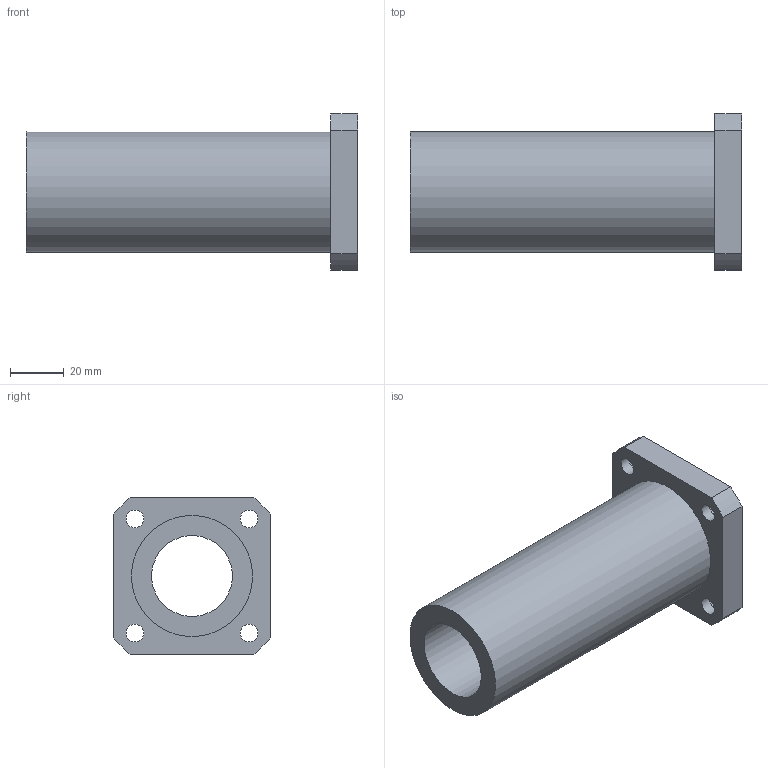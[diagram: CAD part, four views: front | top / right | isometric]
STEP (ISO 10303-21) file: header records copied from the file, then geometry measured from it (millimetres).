
FILE_DESCRIPTION(/* description */ (''),/* implementation_level */ '2;1');
FILE_NAME(/* name */ 'LMK30LUU',/* time_stamp */ '2019-07-09T15:48:43+02:00',/* author */ ('VĂ©gh MĂˇtĂ©'),/* organization */ ('Bearing Kft'),/* preprocessor_version */ 'ST-DEVELOPER v16.7',/* originating_system */ 'DEX',/* authorisation */ $);
FILE_SCHEMA (('AUTOMOTIVE_DESIGN {1 0 10303 214 3 1 1}'));
Length unit declared in the file: millimetre
Products named in the file (1): LMK30LUU
Bounding box: 123 x 58 x 58 mm (x, y, z)
Volume: 122886.3 mm3; surface area: 35851.8 mm2
Topology: 1 solids, 1 shells, 332 faces, 834 edges, 556 vertices
Faces by surface type: plane 255, bspline 61, cylinder 16
Full cylindrical faces by diameter (mm): 6.6 x4, 11 x4, 30 x1, 45 x1
Entity records: 12965 total; most frequent: CARTESIAN_POINT 5367, ORIENTED_EDGE 1642, DIRECTION 1275, EDGE_CURVE 821, LINE 667, VECTOR 667, VERTEX_POINT 556, EDGE_LOOP 407
